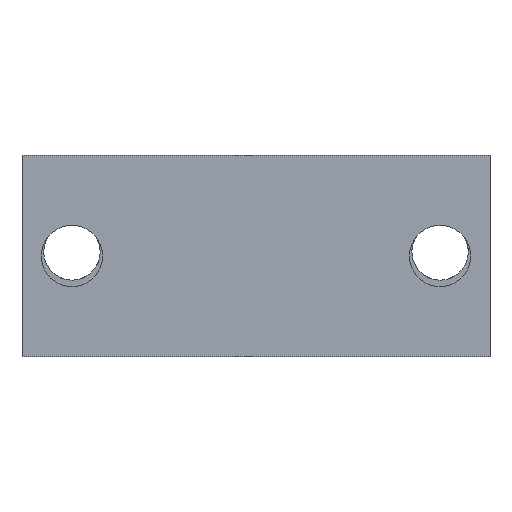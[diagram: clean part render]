
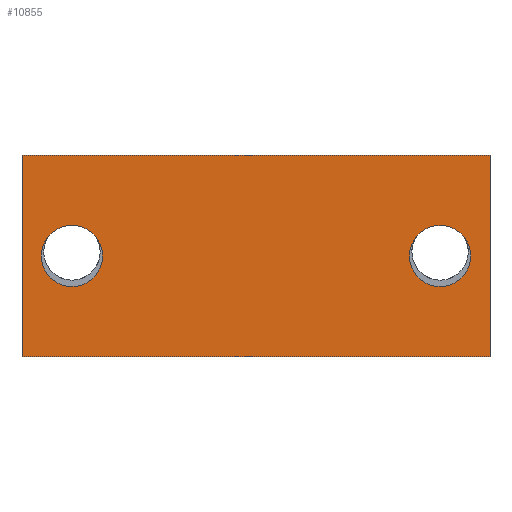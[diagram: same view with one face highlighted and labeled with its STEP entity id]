
A CAD part, front view. The second image highlights one B-rep face of the part: STEP entity #10855.
In plain terms, the highlighted planar face has unit normal (0, -1, 0).
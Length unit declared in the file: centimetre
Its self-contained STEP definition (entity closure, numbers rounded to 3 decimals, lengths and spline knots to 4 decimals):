
#574=CIRCLE('',#18227,0.19);
#636=CIRCLE('',#18404,0.19);
#1164=VERTEX_POINT('',#15678);
#1165=VERTEX_POINT('',#15680);
#1168=VERTEX_POINT('',#15688);
#1385=VERTEX_POINT('',#16419);
#1388=VERTEX_POINT('',#16428);
#1389=VERTEX_POINT('',#16430);
#2317=VECTOR('',#12474,1.);
#2547=VECTOR('',#12974,1.);
#2552=VECTOR('',#12982,1.);
#2553=VECTOR('',#12983,1.);
#3553=LINE('',#15679,#2317);
#3783=LINE('',#16418,#2547);
#3788=LINE('',#16429,#2552);
#3789=LINE('',#16431,#2553);
#4982=EDGE_CURVE('',#1165,#1164,#3553,.T.);
#4986=EDGE_CURVE('',#1168,#1168,#574,.T.);
#5310=EDGE_CURVE('',#1385,#1164,#3783,.T.);
#5315=EDGE_CURVE('',#1388,#1388,#636,.T.);
#5316=EDGE_CURVE('',#1389,#1165,#3788,.T.);
#5317=EDGE_CURVE('',#1385,#1389,#3789,.T.);
#8017=ORIENTED_EDGE('',*,*,#4986,.T.);
#8018=ORIENTED_EDGE('',*,*,#5315,.T.);
#8019=ORIENTED_EDGE('',*,*,#5316,.T.);
#8020=ORIENTED_EDGE('',*,*,#4982,.T.);
#8021=ORIENTED_EDGE('',*,*,#5310,.F.);
#8022=ORIENTED_EDGE('',*,*,#5317,.T.);
#9547=EDGE_LOOP('',(#8017));
#9548=EDGE_LOOP('',(#8018));
#9549=EDGE_LOOP('',(#8019,#8020,#8021,#8022));
#10221=FACE_BOUND('',#9547,.T.);
#10222=FACE_BOUND('',#9548,.T.);
#10223=FACE_BOUND('',#9549,.T.);
#10855=ADVANCED_FACE('',(#10221,#10222,#10223),#11355,.T.);
#11355=PLANE('',#18403);
#12474=DIRECTION('',(0.,0.,1.));
#12480=DIRECTION('',(0.,1.,0.));
#12481=DIRECTION('',(0.19,0.,0.));
#12974=DIRECTION('',(1.,0.,0.));
#12979=DIRECTION('',(0.,-1.,0.));
#12980=DIRECTION('',(0.,1.,0.));
#12981=DIRECTION('',(0.19,0.,0.));
#12982=DIRECTION('',(1.,0.,0.));
#12983=DIRECTION('',(0.,0.,-1.));
#15678=CARTESIAN_POINT('',(1.834,-0.53,0.625));
#15679=CARTESIAN_POINT('',(1.834,-0.53,0.625));
#15680=CARTESIAN_POINT('',(1.834,-0.53,-0.625));
#15687=CARTESIAN_POINT('',(1.524,-0.53,0.));
#15688=CARTESIAN_POINT('',(1.334,-0.53,0.));
#16418=CARTESIAN_POINT('',(-1.072,-0.53,0.625));
#16419=CARTESIAN_POINT('',(-1.072,-0.53,0.625));
#16426=CARTESIAN_POINT('',(-0.452,-0.53,0.));
#16427=CARTESIAN_POINT('',(-0.762,-0.53,0.));
#16428=CARTESIAN_POINT('',(-0.952,-0.53,0.));
#16429=CARTESIAN_POINT('',(-1.072,-0.53,-0.625));
#16430=CARTESIAN_POINT('',(-1.072,-0.53,-0.625));
#16431=CARTESIAN_POINT('',(-1.072,-0.53,0.625));
#18227=AXIS2_PLACEMENT_3D('',#15687,#12480,#12481);
#18403=AXIS2_PLACEMENT_3D('',#16426,#12979,$);
#18404=AXIS2_PLACEMENT_3D('',#16427,#12980,#12981);
